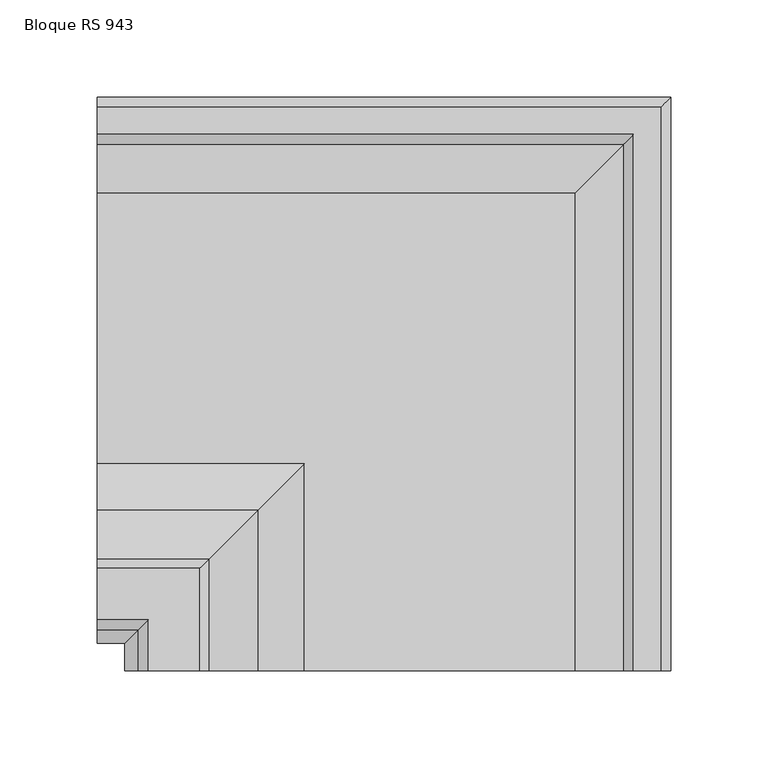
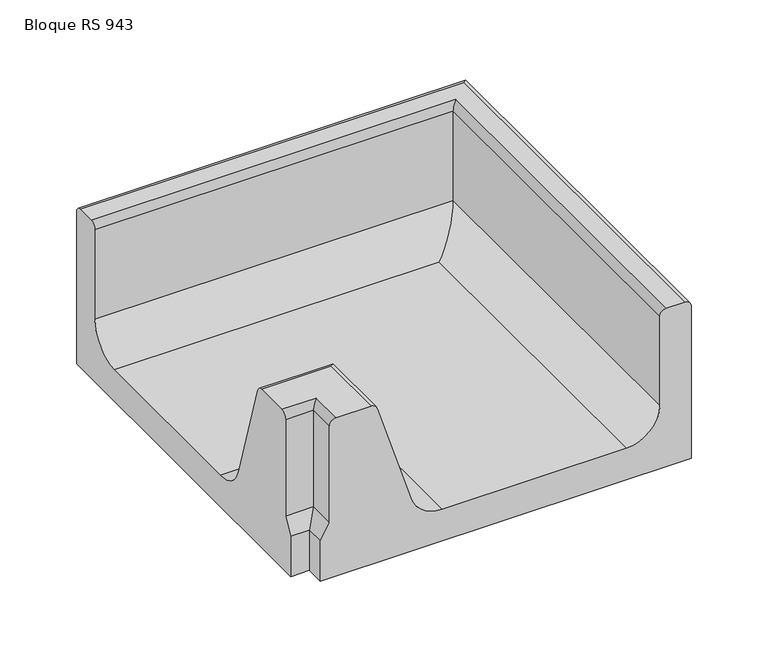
"""IFC4 building model written with IfcOpenShell, lengths in millimetres: proxy geometry, ROSA GRES_RS 943 : Bloque RS 943."""

from ifc_helpers import new_model, si_unit, frame, origin, place, context, project, spatial, polyline, circle_curve, ellipse_curve, source, transform, mapped, element, save
from ifc_brep_helpers import plane_surface, cylinder_surface, revolved_surface, advanced_brep


def bloque_rs_943_f1732a4f(model_context):
    return source(origin(), model_context, "Body", "AdvancedBrep", [
        advanced_brep(
        [(-280.0203405, -266.0004385, 0.0), (-280.0203405, -266.0004385, 32.0012714), (-280.0203405, -259.0004382, 44.0), (-280.0203405, -259.0004382, 121.0), (-280.0203405, -254.0004382, 126.0), (-280.0203405, -227.6727401, 126.0), (-280.0203405, -222.9017574, 122.4959025), (-280.0203405, -197.8261216, 42.5204875), (-280.0203405, -173.9712082, 25.0), (-280.0203405, -35.05, 25.0), (-280.0203405, -10.0, 50.0), (-280.0203405, -10.0, 121.221769), (-280.0203405, -5.0049206, 126.0), (-280.0203405, 9.0, 126.0), (-280.0203405, 14.0, 121.0), (-280.0203405, 14.0, 0.0), (-266.0004385, -280.0203405, 0.0), (14.0, -280.0203405, 0.0), (14.0, -280.0203405, 121.0), (9.0, -280.0203405, 126.0), (-5.0049206, -280.0203405, 126.0), (-10.0, -280.0203405, 121.221769), (-10.0, -280.0203405, 50.0), (-35.05, -280.0203405, 25.0), (-173.9712082, -280.0203405, 25.0), (-197.8261216, -280.0203405, 42.5204875), (-222.9017574, -280.0203405, 122.4959025), (-227.6727401, -280.0203405, 126.0), (-254.0004382, -280.0203405, 126.0), (-259.0004382, -280.0203405, 121.0), (-259.0004382, -280.0203405, 44.0), (-266.0004385, -280.0203405, 32.0012714), (-266.0004385, -266.0004385, 0.0), (-266.0004385, -266.0004385, 32.0012714), (-259.0004382, -259.0004382, 44.0), (-259.0004382, -259.0004382, 121.0), (-254.0004382, -254.0004382, 126.0), (-227.6727401, -227.6727401, 126.0), (-222.9017574, -222.9017574, 122.4959025), (-197.8261216, -197.8261216, 42.5204875), (-173.9712082, -173.9712082, 25.0), (-35.05, -35.05, 25.0), (-10.0, -10.0, 50.0), (-10.0, -10.0, 121.221769), (-5.0049206, -5.0049206, 126.0), (9.0, 9.0, 126.0), (14.0, 14.0, 121.0), (14.0, 14.0, 0.0)],
        [
            (0, 1),
            (1, 2),
            (2, 3),
            (3, 4, circle_curve(frame((-280.0203405, -254.0004382, 121.0), z_axis=(-1.0, 0.0, 0.0), x_axis=(0.0, 1.0, 0.0)), 5.0)),
            (4, 5),
            (5, 6, circle_curve(frame((-280.0203405, -227.6599429, 121.0174239), z_axis=(-1.0, 0.0, 0.0), x_axis=(0.0, 1.0, 0.0)), 4.9825925)),
            (6, 7),
            (7, 8, circle_curve(frame((-280.0203405, -174.1572454, 49.7467022), z_axis=(1.0, 0.0, 0.0), x_axis=(0.0, 1.0, 0.0)), 24.7474015)),
            (8, 9),
            (9, 10, circle_curve(frame((-280.0203405, -34.9400667, 49.9398968), z_axis=(1.0, 0.0, 0.0), x_axis=(0.0, 1.0, 0.0)), 24.9401391)),
            (10, 11),
            (11, 12, circle_curve(frame((-280.0203405, -5.0077539, 121.0029619), z_axis=(-1.0, 0.0, 0.0), x_axis=(0.0, 1.0, 0.0)), 4.9970389)),
            (12, 13),
            (13, 14, circle_curve(frame((-280.0203405, 9.0098178, 121.0098178), z_axis=(-1.0, 0.0, 0.0), x_axis=(0.0, 1.0, 0.0)), 4.9901918)),
            (14, 15),
            (15, 0),
            (16, 17),
            (17, 18),
            (18, 19, circle_curve(frame((9.0098178, -280.0203405, 121.0098178), z_axis=(0.0, -1.0, 0.0), x_axis=(1.0, 0.0, 0.0)), 4.9901918)),
            (19, 20),
            (20, 21, circle_curve(frame((-5.0077539, -280.0203405, 121.0029619), z_axis=(0.0, -1.0, 0.0), x_axis=(1.0, 0.0, 0.0)), 4.9970389)),
            (21, 22),
            (22, 23, circle_curve(frame((-34.9400667, -280.0203405, 49.9398968), z_axis=(0.0, 1.0, 0.0), x_axis=(1.0, 0.0, 0.0)), 24.9401391)),
            (23, 24),
            (24, 25, circle_curve(frame((-174.1572454, -280.0203405, 49.7467022), z_axis=(0.0, 1.0, 0.0), x_axis=(1.0, 0.0, 0.0)), 24.7474015)),
            (25, 26),
            (26, 27, circle_curve(frame((-227.6599429, -280.0203405, 121.0174239), z_axis=(0.0, -1.0, 0.0), x_axis=(1.0, 0.0, 0.0)), 4.9825925)),
            (27, 28),
            (28, 29, circle_curve(frame((-254.0004382, -280.0203405, 121.0), z_axis=(0.0, -1.0, 0.0), x_axis=(1.0, 0.0, 0.0)), 5.0)),
            (29, 30),
            (30, 31),
            (31, 16),
            (0, 32),
            (32, 33),
            (33, 1),
            (33, 34),
            (34, 2),
            (34, 35),
            (35, 3),
            (35, 36, ellipse_curve(frame((-254.0004382, -254.0004382, 121.0), z_axis=(-0.7071067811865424, 0.7071067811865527, 0.0), x_axis=(-0.7071067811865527, -0.7071067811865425, 0.0)), 7.0710678, 5.0)),
            (36, 4),
            (36, 28),
            (27, 37),
            (37, 5),
            (37, 38, ellipse_curve(frame((-227.6599429, -227.6599429, 121.0174239), z_axis=(-0.7071067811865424, 0.7071067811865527, 0.0), x_axis=(-0.7071067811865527, -0.7071067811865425, 0.0)), 7.0464499, 4.9825925)),
            (38, 6),
            (38, 39),
            (39, 7),
            (39, 40, ellipse_curve(frame((-174.1572454, -174.1572454, 49.7467022), z_axis=(0.7071067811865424, -0.7071067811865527, 0.0), x_axis=(0.7071067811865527, 0.7071067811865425, 0.0)), 34.9981108, 24.7474015)),
            (40, 8),
            (40, 24),
            (23, 41),
            (41, 9),
            (41, 42, ellipse_curve(frame((-34.9400667, -34.9400667, 49.9398968), z_axis=(0.7071067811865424, -0.7071067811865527, 0.0), x_axis=(0.7071067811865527, 0.7071067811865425, 0.0)), 35.270683, 24.9401391)),
            (42, 10),
            (42, 43),
            (43, 11),
            (43, 44, ellipse_curve(frame((-5.0077539, -5.0077539, 121.0029619), z_axis=(-0.7071067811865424, 0.7071067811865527, 0.0), x_axis=(-0.7071067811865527, -0.7071067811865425, 0.0)), 7.0668802, 4.9970389)),
            (44, 12),
            (44, 20),
            (19, 45),
            (45, 13),
            (45, 46, ellipse_curve(frame((9.0098178, 9.0098178, 121.0098178), z_axis=(-0.7071067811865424, 0.7071067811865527, 0.0), x_axis=(-0.7071067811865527, -0.7071067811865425, 0.0)), 7.057197, 4.9901918)),
            (46, 14),
            (46, 47),
            (47, 15),
            (47, 17),
            (16, 32),
            (31, 33),
            (30, 34),
            (29, 35),
            (26, 38),
            (25, 39),
            (22, 42),
            (21, 43),
            (18, 46),
        ],
        [
            plane_surface(frame((-280.0203405, 0.4796595, 0.0), z_axis=(-1.0, 0.0, 0.0), x_axis=(0.0, 0.0, 1.0))),
            plane_surface(frame((0.4796595, -280.0203405, 0.0), z_axis=(0.0, -1.0, 0.0), x_axis=(0.0, 0.0, 1.0))),
            plane_surface(frame((-280.0203405, -266.0004385, 0.0), z_axis=(0.0, -1.0, 0.0), x_axis=(1.0, 0.0, 0.0))),
            plane_surface(frame((-280.0203405, -266.0004385, 32.0012714), z_axis=(0.0, -0.8637556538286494, 0.5039108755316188), x_axis=(1.0, 0.0, 0.0))),
            plane_surface(frame((-280.0203405, -259.0004382, 44.0), z_axis=(0.0, -1.0, 0.0), x_axis=(1.0, 0.0, 0.0))),
            cylinder_surface(frame((-280.0203405, -254.0004382, 121.0), z_axis=(-1.0, 0.0, 0.0), x_axis=(0.0, 1.0, 0.0)), 5.0),
            plane_surface(frame((-280.0203405, -254.0004382, 126.0), z_axis=(0.0, 0.0, 1.0), x_axis=(1.0, 0.0, 0.0))),
            cylinder_surface(frame((-280.0203405, -227.6599429, 121.0174239), z_axis=(-1.0, 0.0, 0.0), x_axis=(0.0, 1.0, 0.0)), 4.9825925),
            plane_surface(frame((-280.0203405, -222.9017574, 122.4959025), z_axis=(0.0, 0.9541965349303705, 0.29918050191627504), x_axis=(1.0, 0.0, 0.0))),
            revolved_surface(polyline([(-149.40984392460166, -149.4098439, 49.7467022), (-280.0203405, -149.4098439, 49.7467022)]), (-280.0203405, -174.1572454, 49.7467022), (1.0, 0.0, 0.0)),
            plane_surface(frame((-280.0203405, -173.9712082, 25.0), z_axis=(0.0, 0.0, 1.0), x_axis=(1.0, 0.0, 0.0))),
            revolved_surface(polyline([(-9.99992757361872, -9.999927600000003, 49.9398968), (-280.0203405, -9.999927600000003, 49.9398968)]), (-280.0203405, -34.9400667, 49.9398968), (1.0, 0.0, 0.0)),
            plane_surface(frame((-280.0203405, -10.0, 50.0), z_axis=(0.0, -1.0, 0.0), x_axis=(1.0, 0.0, 0.0))),
            cylinder_surface(frame((-280.0203405, -5.0077539, 121.0029619), z_axis=(-1.0, 0.0, 0.0), x_axis=(0.0, 1.0, 0.0)), 4.9970389),
            plane_surface(frame((-280.0203405, -5.0049206, 126.0), z_axis=(0.0, 0.0, 1.0), x_axis=(1.0, 0.0, 0.0))),
            cylinder_surface(frame((-280.0203405, 9.0098178, 121.0098178), z_axis=(-1.0, 0.0, 0.0), x_axis=(0.0, 1.0, 0.0)), 4.9901918),
            plane_surface(frame((-280.0203405, 14.0, 121.0), z_axis=(0.0, 1.0, 0.0), x_axis=(1.0, 0.0, 0.0))),
            plane_surface(frame((-280.0203405, 14.0, 0.0), z_axis=(0.0, 0.0, -1.0), x_axis=(1.0, 0.0, 0.0))),
            plane_surface(frame((-266.0004385, -266.0004385, 0.0), z_axis=(-1.0, 0.0, 0.0), x_axis=(0.0, -1.0, 0.0))),
            plane_surface(frame((-266.0004385, -266.0004385, 32.0012714), z_axis=(-0.8637556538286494, 0.0, 0.5039108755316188), x_axis=(0.0, -1.0, 0.0))),
            plane_surface(frame((-259.0004382, -259.0004382, 44.0), z_axis=(-1.0, 0.0, 0.0), x_axis=(0.0, -1.0, 0.0))),
            cylinder_surface(frame((-254.0004382, 0.4796595, 121.0), z_axis=(0.0, 1.0, 0.0), x_axis=(1.0, 0.0, 0.0)), 5.0),
            cylinder_surface(frame((-227.6599429, 0.4796595, 121.0174239), z_axis=(0.0, 1.0, 0.0), x_axis=(1.0, 0.0, 0.0)), 4.9825925),
            plane_surface(frame((-222.9017574, -222.9017574, 122.4959025), z_axis=(0.9541965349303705, 0.0, 0.29918050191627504), x_axis=(0.0, -1.0, 0.0))),
            revolved_surface(polyline([(-149.4098439, -280.0203405, 49.7467022), (-149.4098439, -149.40984392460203, 49.7467022)]), (-174.1572454, 0.4796595, 49.7467022), (0.0, -1.0, 0.0)),
            revolved_surface(polyline([(-9.999927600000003, -280.0203405, 49.9398968), (-9.999927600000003, -9.999927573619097, 49.9398968)]), (-34.9400667, 0.4796595, 49.9398968), (0.0, -1.0, 0.0)),
            plane_surface(frame((-10.0, -10.0, 50.0), z_axis=(-1.0, 0.0, 0.0), x_axis=(0.0, -1.0, 0.0))),
            cylinder_surface(frame((-5.0077539, 0.4796595, 121.0029619), z_axis=(0.0, 1.0, 0.0), x_axis=(1.0, 0.0, 0.0)), 4.9970389),
            cylinder_surface(frame((9.0098178, 0.4796595, 121.0098178), z_axis=(0.0, 1.0, 0.0), x_axis=(1.0, 0.0, 0.0)), 4.9901918),
            plane_surface(frame((14.0, 14.0, 121.0), z_axis=(1.0, 0.0, 0.0), x_axis=(0.0, -1.0, 0.0))),
        ],
        [
            (0, [[1, 2, 3, 4, 5, 6, 7, 8, 9, 10, 11, 12, 13, 14, 15, 16]]),
            (1, [[17, 18, 19, 20, 21, 22, 23, 24, 25, 26, 27, 28, 29, 30, 31, 32]]),
            (2, [[-1, 33, 34, 35]]),
            (3, [[-2, -35, 36, 37]]),
            (4, [[-3, -37, 38, 39]]),
            (5, [[-4, -39, 40, 41]]),
            (6, [[-5, -41, 42, -28, 43, 44]]),
            (7, [[-6, -44, 45, 46]]),
            (8, [[-7, -46, 47, 48]]),
            (9, [[-8, -48, 49, 50]]),
            (10, [[-9, -50, 51, -24, 52, 53]]),
            (11, [[-10, -53, 54, 55]]),
            (12, [[-11, -55, 56, 57]]),
            (13, [[-12, -57, 58, 59]]),
            (14, [[-13, -59, 60, -20, 61, 62]]),
            (15, [[-14, -62, 63, 64]]),
            (16, [[-15, -64, 65, 66]]),
            (17, [[-16, -66, 67, -17, 68, -33]]),
            (18, [[-34, -68, -32, 69]]),
            (19, [[-36, -69, -31, 70]]),
            (20, [[-38, -70, -30, 71]]),
            (21, [[-40, -71, -29, -42]]),
            (22, [[-45, -43, -27, 72]]),
            (23, [[-47, -72, -26, 73]]),
            (24, [[-49, -73, -25, -51]]),
            (25, [[-54, -52, -23, 74]]),
            (26, [[-56, -74, -22, 75]]),
            (27, [[-58, -75, -21, -60]]),
            (28, [[-63, -61, -19, 76]]),
            (29, [[-65, -76, -18, -67]]),
        ],
    ),
    ])


if __name__ == "__main__":
    model = new_model("IFC4")
    model_context = context("Model", 3, world=origin())
    ifc_project = project(units=[si_unit("LENGTHUNIT", "METRE", prefix="MILLI")], contexts=[model_context])
    site = spatial("IfcSite", under=ifc_project)
    building = spatial("IfcBuilding", under=site)
    placement = place(None, origin())
    bloque_rs_943_shape = bloque_rs_943_f1732a4f(model_context)
    element("IfcBuildingElementProxy", 1, Name="ROSA GRES_RS 943 : Bloque RS 943", ObjectType="ROSA GRES_RS 943 : Bloque RS 943", at=placement, inside=building, context=model_context, shape_type="MappedRepresentation", body=[
        mapped(bloque_rs_943_shape, transform((0.0, 0.0, 0.0), x_axis=(1.0, 0.0, 0.0), y_axis=(0.0, 1.0, 0.0), z_axis=(0.0, 0.0, 1.0))),
    ])
    save(model, "model.ifc")
